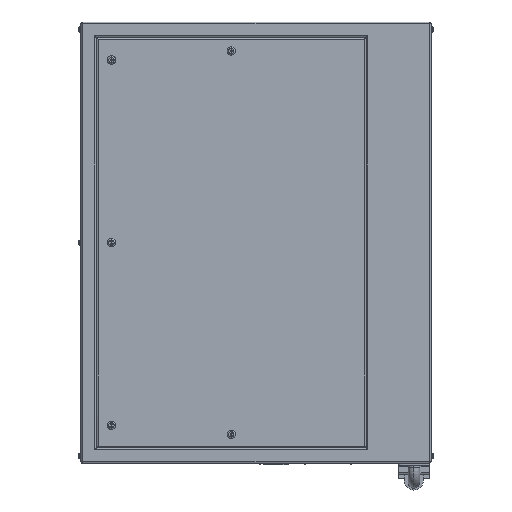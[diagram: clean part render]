
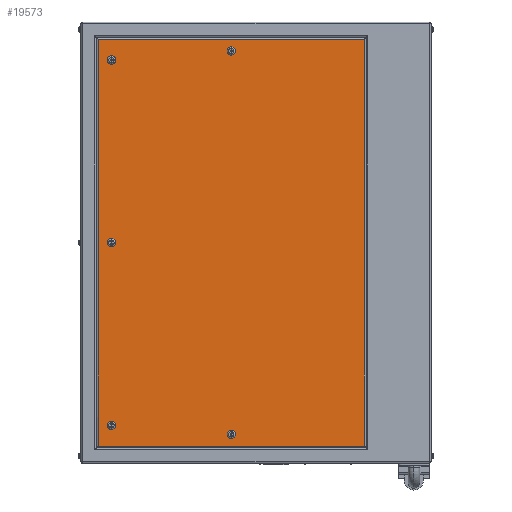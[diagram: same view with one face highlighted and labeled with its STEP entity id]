
A CAD part, left-side view. The second image highlights one B-rep face of the part: STEP entity #19573.
In plain terms, the highlighted planar face has unit normal (-1, 0, 0).
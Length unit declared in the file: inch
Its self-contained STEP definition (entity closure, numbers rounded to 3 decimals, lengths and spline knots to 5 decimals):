
#251 = CARTESIAN_POINT ( 'NONE',  ( -14., 3.25, -24.64 ) ) ;
#511 = EDGE_LOOP ( 'NONE', ( #6025, #13165 ) ) ;
#905 = CARTESIAN_POINT ( 'NONE',  ( -14., 19., -0.55 ) ) ;
#1390 = VECTOR ( 'NONE', #8467, 39.37008 ) ;
#1431 = DIRECTION ( 'NONE',  ( 1., 0., 0. ) ) ;
#1499 = AXIS2_PLACEMENT_3D ( 'NONE', #6034, #15153, #13348 ) ;
#1542 = CARTESIAN_POINT ( 'NONE',  ( -14., 19., 23.45 ) ) ;
#1926 = CARTESIAN_POINT ( 'NONE',  ( -14., 23., 26.74 ) ) ;
#1987 = LINE ( 'NONE', #22288, #3467 ) ;
#2050 = LINE ( 'NONE', #1926, #15044 ) ;
#2188 = VERTEX_POINT ( 'NONE', #1542 ) ;
#2383 = EDGE_CURVE ( 'NONE', #20595, #10979, #8599, .T. ) ;
#2406 = DIRECTION ( 'NONE',  ( 0., 0., -1. ) ) ;
#2486 = EDGE_CURVE ( 'NONE', #2188, #3305, #7030, .T. ) ;
#2836 = DIRECTION ( 'NONE',  ( 0., 0., -1. ) ) ;
#3305 = VERTEX_POINT ( 'NONE', #6053 ) ;
#3467 = VECTOR ( 'NONE', #5765, 39.37008 ) ;
#3577 = EDGE_CURVE ( 'NONE', #19068, #7229, #1987, .T. ) ;
#3861 = DIRECTION ( 'NONE',  ( 0., 1., 0. ) ) ;
#4213 = DIRECTION ( 'NONE',  ( 1., 0., 0. ) ) ;
#4262 = DIRECTION ( 'NONE',  ( 1., 0., 0. ) ) ;
#4287 = CIRCLE ( 'NONE', #19800, 0.55 ) ;
#4850 = EDGE_CURVE ( 'NONE', #24055, #19068, #21392, .T. ) ;
#4983 = VECTOR ( 'NONE', #7222, 39.37008 ) ;
#5171 = CARTESIAN_POINT ( 'NONE',  ( -14., 19., -24.55 ) ) ;
#5203 = CARTESIAN_POINT ( 'NONE',  ( -14., 19., 0.55 ) ) ;
#5305 = ORIENTED_EDGE ( 'NONE', *, *, #17762, .T. ) ;
#5504 = CIRCLE ( 'NONE', #23335, 0.55 ) ;
#5765 = DIRECTION ( 'NONE',  ( 0., 0., 1. ) ) ;
#6025 = ORIENTED_EDGE ( 'NONE', *, *, #14042, .T. ) ;
#6034 = CARTESIAN_POINT ( 'NONE',  ( -14., 3.25, -25.19 ) ) ;
#6053 = CARTESIAN_POINT ( 'NONE',  ( -14., 19., 24.55 ) ) ;
#6217 = AXIS2_PLACEMENT_3D ( 'NONE', #22797, #21193, #19377 ) ;
#6681 = EDGE_LOOP ( 'NONE', ( #14003, #21456 ) ) ;
#6869 = EDGE_CURVE ( 'NONE', #11938, #7177, #4287, .T. ) ;
#6881 = ORIENTED_EDGE ( 'NONE', *, *, #4850, .T. ) ;
#7030 = CIRCLE ( 'NONE', #6217, 0.55 ) ;
#7135 = CIRCLE ( 'NONE', #23379, 0.55 ) ;
#7154 = AXIS2_PLACEMENT_3D ( 'NONE', #21700, #12068, #19895 ) ;
#7177 = VERTEX_POINT ( 'NONE', #5171 ) ;
#7222 = DIRECTION ( 'NONE',  ( 0., -1., 0. ) ) ;
#7229 = VERTEX_POINT ( 'NONE', #23397 ) ;
#8225 = LINE ( 'NONE', #15618, #1390 ) ;
#8251 = AXIS2_PLACEMENT_3D ( 'NONE', #20973, #13390, #2406 ) ;
#8350 = DIRECTION ( 'NONE',  ( 0., 0., -1. ) ) ;
#8450 = EDGE_CURVE ( 'NONE', #7177, #11938, #11773, .T. ) ;
#8467 = DIRECTION ( 'NONE',  ( 0., 0., -1. ) ) ;
#8575 = CARTESIAN_POINT ( 'NONE',  ( -14., 3.25, 25.74 ) ) ;
#8579 = EDGE_LOOP ( 'NONE', ( #20200, #9837 ) ) ;
#8599 = CIRCLE ( 'NONE', #24056, 0.55 ) ;
#9547 = DIRECTION ( 'NONE',  ( 0., 0., -1. ) ) ;
#9837 = ORIENTED_EDGE ( 'NONE', *, *, #14934, .T. ) ;
#10070 = ORIENTED_EDGE ( 'NONE', *, *, #17250, .T. ) ;
#10174 = ORIENTED_EDGE ( 'NONE', *, *, #23830, .T. ) ;
#10979 = VERTEX_POINT ( 'NONE', #5203 ) ;
#11132 = EDGE_CURVE ( 'NONE', #11515, #15124, #18569, .T. ) ;
#11317 = DIRECTION ( 'NONE',  ( 0., 0., -1. ) ) ;
#11515 = VERTEX_POINT ( 'NONE', #251 ) ;
#11554 = ORIENTED_EDGE ( 'NONE', *, *, #8450, .T. ) ;
#11595 = FACE_BOUND ( 'NONE', #17452, .T. ) ;
#11773 = CIRCLE ( 'NONE', #21013, 0.55 ) ;
#11836 = FACE_BOUND ( 'NONE', #6681, .T. ) ;
#11919 = CARTESIAN_POINT ( 'NONE',  ( -14., -14.24, -26.74 ) ) ;
#11938 = VERTEX_POINT ( 'NONE', #15781 ) ;
#12068 = DIRECTION ( 'NONE',  ( 1., 0., 0. ) ) ;
#12082 = CARTESIAN_POINT ( 'NONE',  ( -14., 20.74, -26.74 ) ) ;
#12223 = CARTESIAN_POINT ( 'NONE',  ( -14., 3.25, 25.19 ) ) ;
#12878 = CARTESIAN_POINT ( 'NONE',  ( -14., 19., 0. ) ) ;
#13165 = ORIENTED_EDGE ( 'NONE', *, *, #11132, .T. ) ;
#13272 = PLANE ( 'NONE',  #7154 ) ;
#13348 = DIRECTION ( 'NONE',  ( 0., 0., 1. ) ) ;
#13390 = DIRECTION ( 'NONE',  ( 1., 0., 0. ) ) ;
#13751 = FACE_BOUND ( 'NONE', #8579, .T. ) ;
#14003 = ORIENTED_EDGE ( 'NONE', *, *, #2383, .T. ) ;
#14042 = EDGE_CURVE ( 'NONE', #15124, #11515, #5504, .T. ) ;
#14109 = CARTESIAN_POINT ( 'NONE',  ( -14., 3.25, 24.64 ) ) ;
#14252 = DIRECTION ( 'NONE',  ( 0., 0., -1. ) ) ;
#14276 = DIRECTION ( 'NONE',  ( 1., 0., 0. ) ) ;
#14934 = EDGE_CURVE ( 'NONE', #3305, #2188, #16393, .T. ) ;
#15044 = VECTOR ( 'NONE', #3861, 39.37008 ) ;
#15124 = VERTEX_POINT ( 'NONE', #15533 ) ;
#15153 = DIRECTION ( 'NONE',  ( 1., 0., 0. ) ) ;
#15333 = FACE_OUTER_BOUND ( 'NONE', #19156, .T. ) ;
#15533 = CARTESIAN_POINT ( 'NONE',  ( -14., 3.25, -25.74 ) ) ;
#15554 = ORIENTED_EDGE ( 'NONE', *, *, #3577, .T. ) ;
#15558 = DIRECTION ( 'NONE',  ( 0., 0., 1. ) ) ;
#15618 = CARTESIAN_POINT ( 'NONE',  ( -14., 20.74, -29. ) ) ;
#15744 = CARTESIAN_POINT ( 'NONE',  ( -14., 23., -26.74 ) ) ;
#15781 = CARTESIAN_POINT ( 'NONE',  ( -14., 19., -23.45 ) ) ;
#16066 = DIRECTION ( 'NONE',  ( 1., 0., 0. ) ) ;
#16393 = CIRCLE ( 'NONE', #8251, 0.55 ) ;
#16955 = ORIENTED_EDGE ( 'NONE', *, *, #6869, .T. ) ;
#17063 = DIRECTION ( 'NONE',  ( 1., 0., 0. ) ) ;
#17250 = EDGE_CURVE ( 'NONE', #21082, #24055, #8225, .T. ) ;
#17452 = EDGE_LOOP ( 'NONE', ( #10174, #23731 ) ) ;
#17762 = EDGE_CURVE ( 'NONE', #7229, #21082, #2050, .T. ) ;
#18424 = EDGE_CURVE ( 'NONE', #19303, #21255, #7135, .T. ) ;
#18545 = DIRECTION ( 'NONE',  ( 1., 0., 0. ) ) ;
#18569 = CIRCLE ( 'NONE', #1499, 0.55 ) ;
#18572 = CIRCLE ( 'NONE', #19328, 0.55 ) ;
#18945 = FACE_BOUND ( 'NONE', #21378, .T. ) ;
#18985 = CARTESIAN_POINT ( 'NONE',  ( -14., 19., -24. ) ) ;
#19068 = VERTEX_POINT ( 'NONE', #11919 ) ;
#19156 = EDGE_LOOP ( 'NONE', ( #6881, #15554, #5305, #10070 ) ) ;
#19303 = VERTEX_POINT ( 'NONE', #8575 ) ;
#19328 = AXIS2_PLACEMENT_3D ( 'NONE', #21629, #14276, #2836 ) ;
#19332 = CARTESIAN_POINT ( 'NONE',  ( -14., 20.74, 26.74 ) ) ;
#19377 = DIRECTION ( 'NONE',  ( 0., 0., -1. ) ) ;
#19573 = ADVANCED_FACE ( 'NONE', ( #20989, #11595, #18945, #11836, #13751, #15333 ), #13272, .F. ) ;
#19800 = AXIS2_PLACEMENT_3D ( 'NONE', #21146, #4262, #9547 ) ;
#19895 = DIRECTION ( 'NONE',  ( 0., 0., -1. ) ) ;
#20200 = ORIENTED_EDGE ( 'NONE', *, *, #2486, .T. ) ;
#20595 = VERTEX_POINT ( 'NONE', #905 ) ;
#20823 = CIRCLE ( 'NONE', #23951, 0.55 ) ;
#20967 = CARTESIAN_POINT ( 'NONE',  ( -14., 3.25, -25.19 ) ) ;
#20973 = CARTESIAN_POINT ( 'NONE',  ( -14., 19., 24. ) ) ;
#20989 = FACE_BOUND ( 'NONE', #511, .T. ) ;
#21013 = AXIS2_PLACEMENT_3D ( 'NONE', #18985, #17063, #8350 ) ;
#21082 = VERTEX_POINT ( 'NONE', #19332 ) ;
#21146 = CARTESIAN_POINT ( 'NONE',  ( -14., 19., -24. ) ) ;
#21193 = DIRECTION ( 'NONE',  ( 1., 0., 0. ) ) ;
#21255 = VERTEX_POINT ( 'NONE', #14109 ) ;
#21378 = EDGE_LOOP ( 'NONE', ( #11554, #16955 ) ) ;
#21392 = LINE ( 'NONE', #15744, #4983 ) ;
#21456 = ORIENTED_EDGE ( 'NONE', *, *, #21882, .T. ) ;
#21629 = CARTESIAN_POINT ( 'NONE',  ( -14., 3.25, 25.19 ) ) ;
#21700 = CARTESIAN_POINT ( 'NONE',  ( -14., 23., -29. ) ) ;
#21704 = CARTESIAN_POINT ( 'NONE',  ( -14., 19., 0. ) ) ;
#21882 = EDGE_CURVE ( 'NONE', #10979, #20595, #20823, .T. ) ;
#22288 = CARTESIAN_POINT ( 'NONE',  ( -14., -14.24, -29. ) ) ;
#22797 = CARTESIAN_POINT ( 'NONE',  ( -14., 19., 24. ) ) ;
#23335 = AXIS2_PLACEMENT_3D ( 'NONE', #20967, #4213, #15558 ) ;
#23379 = AXIS2_PLACEMENT_3D ( 'NONE', #12223, #16066, #14252 ) ;
#23397 = CARTESIAN_POINT ( 'NONE',  ( -14., -14.24, 26.74 ) ) ;
#23435 = DIRECTION ( 'NONE',  ( 0., 0., -1. ) ) ;
#23731 = ORIENTED_EDGE ( 'NONE', *, *, #18424, .T. ) ;
#23830 = EDGE_CURVE ( 'NONE', #21255, #19303, #18572, .T. ) ;
#23951 = AXIS2_PLACEMENT_3D ( 'NONE', #21704, #1431, #23435 ) ;
#24055 = VERTEX_POINT ( 'NONE', #12082 ) ;
#24056 = AXIS2_PLACEMENT_3D ( 'NONE', #12878, #18545, #11317 ) ;
